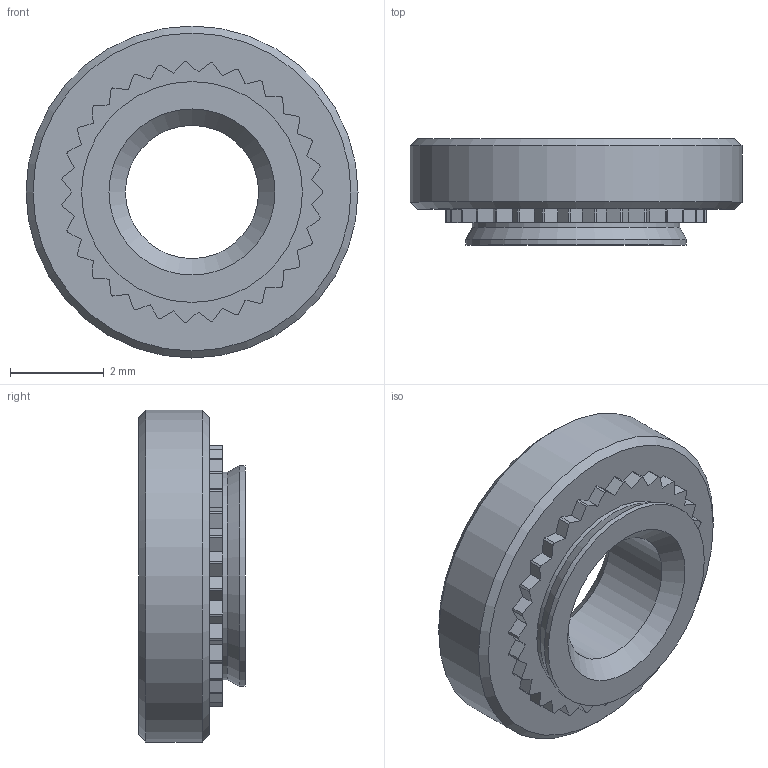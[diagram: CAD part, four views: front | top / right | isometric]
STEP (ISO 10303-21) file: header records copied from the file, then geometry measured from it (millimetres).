
FILE_DESCRIPTION(/* description */ (''),/* implementation_level */ '2;1');
FILE_NAME(/* name */ 'C:\Users\keval.kumar\Desktop\Fastit\Clinch nut\M3.5\Clinch Nut_M3.5_0.stp',/* time_stamp */ '2024-03-14T09:34:27+05:00',/* author */ ('keval.kumar'),/* organization */ (''),/* preprocessor_version */ 'ST-DEVELOPER v18.1',/* originating_system */ 'Autodesk Inventor 2022',/* authorisation */ '');
FILE_SCHEMA (('AUTOMOTIVE_DESIGN { 1 0 10303 214 3 1 1 }'));
Length unit declared in the file: millimetre
Products named in the file (1): Clinch Nut_M3.5_0
Bounding box: 7.1 x 2.27 x 7.1 mm (x, y, z)
Volume: 57.7 mm3; surface area: 128.7 mm2
Topology: 1 solids, 1 shells, 106 faces, 303 edges, 201 vertices
Faces by surface type: plane 66, cylinder 35, cone 5
Full cylindrical faces by diameter (mm): 2.85 x1, 4.44 x1, 4.72 x1, 7.1 x1
Entity records: 3507 total; most frequent: CARTESIAN_POINT 611, ORIENTED_EDGE 606, DIRECTION 594, EDGE_CURVE 303, LINE 226, VECTOR 226, VERTEX_POINT 201, AXIS2_PLACEMENT_3D 184
